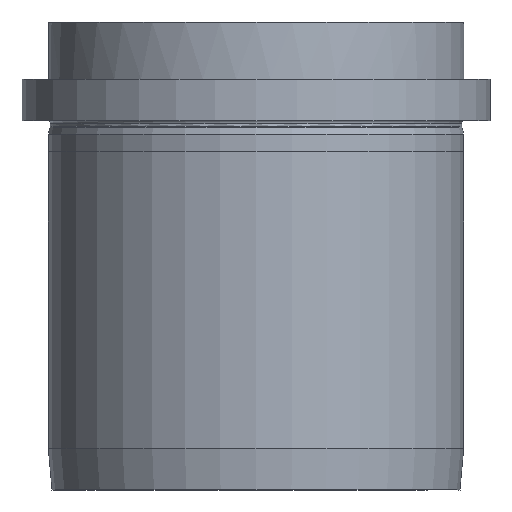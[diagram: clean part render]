
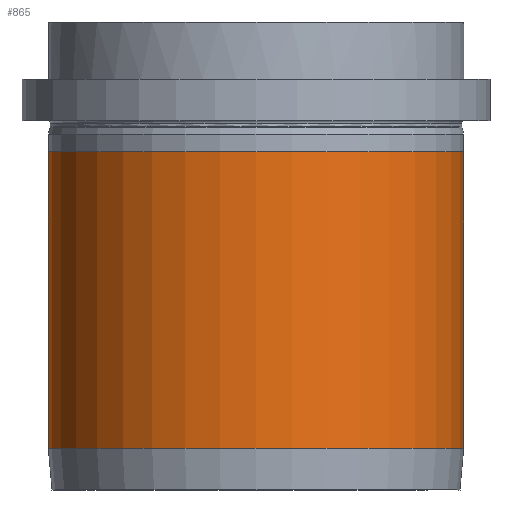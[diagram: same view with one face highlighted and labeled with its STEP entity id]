
A CAD part, left-side view. The second image highlights one B-rep face of the part: STEP entity #865.
In plain terms, the highlighted cylindrical face has radius 31.5 mm (diameter 63 mm), a partial arc.
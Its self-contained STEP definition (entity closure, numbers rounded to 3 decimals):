
#618=CARTESIAN_POINT('Vertex',(0.,31.5,51.3)) ;
#625=CARTESIAN_POINT('Vertex',(0.,-31.5,51.3)) ;
#640=CARTESIAN_POINT('Axis2P3D Location',(0.,0.,51.3)) ;
#773=CARTESIAN_POINT('Axis2P3D Location',(0.,0.,6.3)) ;
#777=CARTESIAN_POINT('Vertex',(0.,31.5,6.3)) ;
#779=CARTESIAN_POINT('Vertex',(0.,-31.5,6.3)) ;
#844=CARTESIAN_POINT('Axis2P3D Location',(0.,0.,28.8)) ;
#849=CARTESIAN_POINT('Line Origine',(0.,31.5,28.8)) ;
#854=CARTESIAN_POINT('Line Origine',(0.,-31.5,28.8)) ;
#641=DIRECTION('Axis2P3D Direction',(0.,0.,1.)) ;
#774=DIRECTION('Axis2P3D Direction',(0.,0.,1.)) ;
#845=DIRECTION('Axis2P3D Direction',(0.,0.,1.)) ;
#846=DIRECTION('Axis2P3D XDirection',(0.,1.,0.)) ;
#850=DIRECTION('Vector Direction',(0.,0.,1.)) ;
#855=DIRECTION('Vector Direction',(0.,0.,1.)) ;
#642=AXIS2_PLACEMENT_3D('Circle Axis2P3D',#640,#641,$) ;
#775=AXIS2_PLACEMENT_3D('Circle Axis2P3D',#773,#774,$) ;
#847=AXIS2_PLACEMENT_3D('Cylinder Axis2P3D',#844,#845,#846) ;
#860=ORIENTED_EDGE('',*,*,#853,.F.) ;
#861=ORIENTED_EDGE('',*,*,#781,.T.) ;
#862=ORIENTED_EDGE('',*,*,#858,.T.) ;
#863=ORIENTED_EDGE('',*,*,#644,.F.) ;
#851=VECTOR('Line Direction',#850,1.) ;
#856=VECTOR('Line Direction',#855,1.) ;
#865=ADVANCED_FACE('PartBody',(#864),#848,.T.) ;
#643=CIRCLE('generated circle',#642,31.5) ;
#776=CIRCLE('generated circle',#775,31.5) ;
#848=CYLINDRICAL_SURFACE('generated cylinder',#847,31.5) ;
#644=EDGE_CURVE('',#619,#626,#643,.T.) ;
#781=EDGE_CURVE('',#778,#780,#776,.T.) ;
#853=EDGE_CURVE('',#778,#619,#852,.T.) ;
#858=EDGE_CURVE('',#780,#626,#857,.T.) ;
#859=EDGE_LOOP('',(#860,#861,#862,#863)) ;
#864=FACE_OUTER_BOUND('',#859,.T.) ;
#852=LINE('Line',#849,#851) ;
#857=LINE('Line',#854,#856) ;
#619=VERTEX_POINT('',#618) ;
#626=VERTEX_POINT('',#625) ;
#778=VERTEX_POINT('',#777) ;
#780=VERTEX_POINT('',#779) ;
